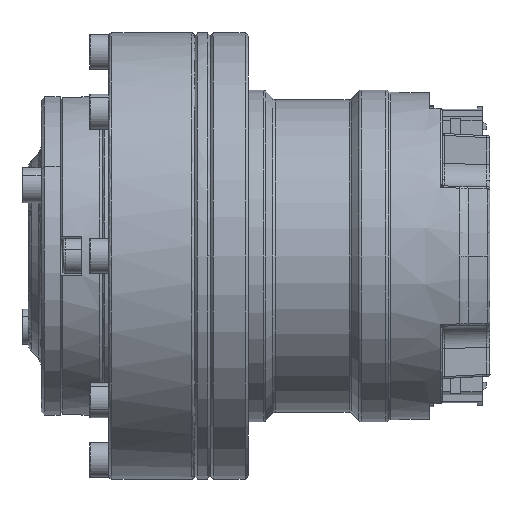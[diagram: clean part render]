
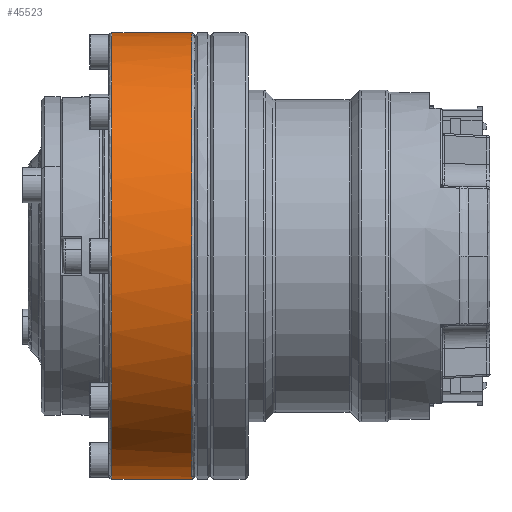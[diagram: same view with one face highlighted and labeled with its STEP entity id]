
A CAD part, left-side view. The second image highlights one B-rep face of the part: STEP entity #45523.
In plain terms, the highlighted cylindrical face has radius 35 mm (diameter 70 mm), a partial arc.
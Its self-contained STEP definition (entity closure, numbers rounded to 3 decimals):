
#5110 = EDGE_CURVE ( 'NONE', #71260, #15625, #108825, .T. ) ;
#14568 = ORIENTED_EDGE ( 'NONE', *, *, #120902, .T. ) ;
#15305 = CARTESIAN_POINT ( 'NONE',  ( 0., -0.1, -35. ) ) ;
#15625 = VERTEX_POINT ( 'NONE', #15305 ) ;
#21055 = VERTEX_POINT ( 'NONE', #38334 ) ;
#25070 = CARTESIAN_POINT ( 'NONE',  ( 0., -0.1, 35. ) ) ;
#26308 = CARTESIAN_POINT ( 'NONE',  ( 0., -0.1, -35. ) ) ;
#31681 = CIRCLE ( 'NONE', #59823, 35. ) ;
#33803 = EDGE_CURVE ( 'NONE', #15625, #21055, #70709, .T. ) ;
#34822 = CARTESIAN_POINT ( 'NONE',  ( -70., -0.1, -35. ) ) ;
#35788 = EDGE_LOOP ( 'NONE', ( #14568, #87182, #74698, #125264 ) ) ;
#36389 = DIRECTION ( 'NONE',  ( 0., -1., 0. ) ) ;
#38334 = CARTESIAN_POINT ( 'NONE',  ( 0., -0.1, 35. ) ) ;
#40329 = CYLINDRICAL_SURFACE ( 'NONE', #65975, 35. ) ;
#45255 = DIRECTION ( 'NONE',  ( 0., -1., 0. ) ) ;
#45523 = ADVANCED_FACE ( 'NONE', ( #76854 ), #40329, .T. ) ;
#54836 = CARTESIAN_POINT ( 'NONE',  ( -70., -0.1, 35. ) ) ;
#55438 = DIRECTION ( 'NONE',  ( 0., 0., 1. ) ) ;
#59823 = AXIS2_PLACEMENT_3D ( 'NONE', #88625, #108204, #118389 ) ;
#62487 = CARTESIAN_POINT ( 'NONE',  ( 0., 12.4, 35. ) ) ;
#62944 = VERTEX_POINT ( 'NONE', #62487 ) ;
#65682 = VECTOR ( 'NONE', #76612, 1000. ) ;
#65975 = AXIS2_PLACEMENT_3D ( 'NONE', #93728, #45255, #55438 ) ;
#68040 = CARTESIAN_POINT ( 'NONE',  ( 0., -0.6, 35. ) ) ;
#70709 =( BOUNDED_CURVE ( )  B_SPLINE_CURVE ( 3, ( #26308, #34822, #54836, #25070 ),
 .UNSPECIFIED., .F., .F. ) 
 B_SPLINE_CURVE_WITH_KNOTS ( ( 4, 4 ),
 ( 0., 208.939 ),
 .UNSPECIFIED. ) 
 CURVE ( )  GEOMETRIC_REPRESENTATION_ITEM ( )  RATIONAL_B_SPLINE_CURVE ( ( 1., 0.333, 0.333, 1. ) ) 
 REPRESENTATION_ITEM ( '' )  );
#71169 = EDGE_CURVE ( 'NONE', #62944, #21055, #106848, .T. ) ;
#71260 = VERTEX_POINT ( 'NONE', #97810 ) ;
#74698 = ORIENTED_EDGE ( 'NONE', *, *, #33803, .T. ) ;
#76612 = DIRECTION ( 'NONE',  ( 0., -1., 0. ) ) ;
#76854 = FACE_OUTER_BOUND ( 'NONE', #35788, .T. ) ;
#87182 = ORIENTED_EDGE ( 'NONE', *, *, #5110, .T. ) ;
#88625 = CARTESIAN_POINT ( 'NONE',  ( 0., 12.4, 0. ) ) ;
#93728 = CARTESIAN_POINT ( 'NONE',  ( 0., -0.6, 0. ) ) ;
#97810 = CARTESIAN_POINT ( 'NONE',  ( 0., 12.4, -35. ) ) ;
#103276 = CARTESIAN_POINT ( 'NONE',  ( 0., -0.6, -35. ) ) ;
#105840 = VECTOR ( 'NONE', #36389, 1000. ) ;
#106848 = LINE ( 'NONE', #68040, #65682 ) ;
#108204 = DIRECTION ( 'NONE',  ( 0., -1., 0. ) ) ;
#108825 = LINE ( 'NONE', #103276, #105840 ) ;
#118389 = DIRECTION ( 'NONE',  ( -1., 0., 0. ) ) ;
#120902 = EDGE_CURVE ( 'NONE', #62944, #71260, #31681, .T. ) ;
#125264 = ORIENTED_EDGE ( 'NONE', *, *, #71169, .F. ) ;
